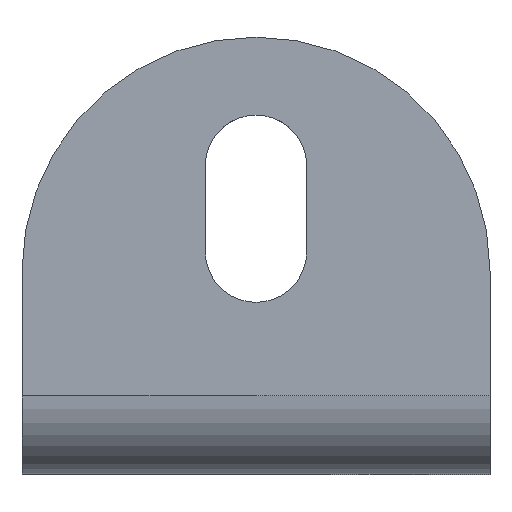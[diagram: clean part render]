
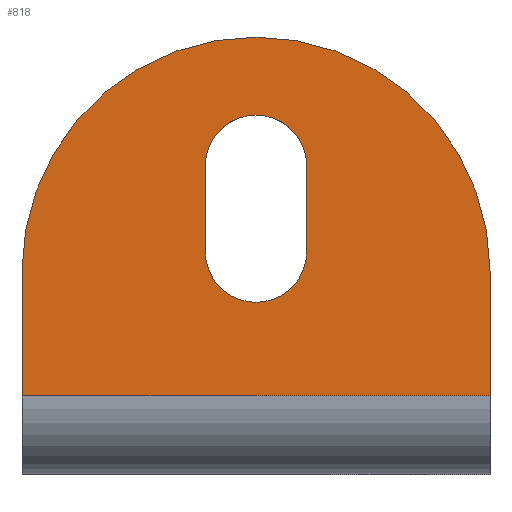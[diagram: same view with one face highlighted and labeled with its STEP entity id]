
A CAD part, top view. The second image highlights one B-rep face of the part: STEP entity #818.
In plain terms, the highlighted planar face has unit normal (0, 0, 1).
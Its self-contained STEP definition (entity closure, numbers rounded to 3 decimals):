
#11=DIRECTION('',(1.,0.,0.));
#12=VECTOR('',#11,30.);
#13=CARTESIAN_POINT('',(-15.,5.,0.));
#14=LINE('',#13,#12);
#19=DIRECTION('',(0.,1.,0.));
#20=VECTOR('',#19,8.);
#21=CARTESIAN_POINT('',(-15.,5.,0.));
#22=LINE('',#21,#20);
#23=CARTESIAN_POINT('',(0.,13.,0.));
#24=DIRECTION('',(0.,0.,-1.));
#25=DIRECTION('',(-1.,0.,0.));
#26=AXIS2_PLACEMENT_3D('',#23,#24,#25);
#28=DIRECTION('',(0.,-1.,0.));
#29=VECTOR('',#28,5.5);
#30=CARTESIAN_POINT('',(-3.25,19.75,0.));
#31=LINE('',#30,#29);
#32=CARTESIAN_POINT('',(0.,14.25,0.));
#33=DIRECTION('',(0.,0.,1.));
#34=DIRECTION('',(-1.,0.,0.));
#35=AXIS2_PLACEMENT_3D('',#32,#33,#34);
#37=DIRECTION('',(0.,1.,0.));
#38=VECTOR('',#37,5.5);
#39=CARTESIAN_POINT('',(3.25,14.25,0.));
#40=LINE('',#39,#38);
#41=CARTESIAN_POINT('',(0.,19.75,0.));
#42=DIRECTION('',(0.,0.,1.));
#43=DIRECTION('',(1.,0.,0.));
#44=AXIS2_PLACEMENT_3D('',#41,#42,#43);
#437=DIRECTION('',(0.,1.,0.));
#438=VECTOR('',#437,8.);
#439=CARTESIAN_POINT('',(15.,5.,0.));
#440=LINE('',#439,#438);
#574=CARTESIAN_POINT('',(-15.,5.,0.));
#576=VERTEX_POINT('',#574);
#588=CARTESIAN_POINT('',(-15.,13.,0.));
#589=VERTEX_POINT('',#588);
#590=CARTESIAN_POINT('',(15.,5.,0.));
#591=VERTEX_POINT('',#590);
#594=CARTESIAN_POINT('',(15.,13.,0.));
#595=VERTEX_POINT('',#594);
#596=CARTESIAN_POINT('',(-3.25,19.75,0.));
#597=CARTESIAN_POINT('',(-3.25,14.25,0.));
#598=VERTEX_POINT('',#596);
#599=VERTEX_POINT('',#597);
#600=CARTESIAN_POINT('',(3.25,14.25,0.));
#601=VERTEX_POINT('',#600);
#602=CARTESIAN_POINT('',(3.25,19.75,0.));
#603=VERTEX_POINT('',#602);
#795=CARTESIAN_POINT('',(-15.,28.,0.));
#796=DIRECTION('',(0.,0.,1.));
#797=DIRECTION('',(0.,-1.,0.));
#798=AXIS2_PLACEMENT_3D('',#795,#796,#797);
#799=PLANE('',#798);
#800=ORIENTED_EDGE('',*,*,#786,.F.);
#801=ORIENTED_EDGE('',*,*,#775,.T.);
#803=ORIENTED_EDGE('',*,*,#802,.T.);
#805=ORIENTED_EDGE('',*,*,#804,.F.);
#806=EDGE_LOOP('',(#800,#801,#803,#805));
#807=FACE_OUTER_BOUND('',#806,.F.);
#809=ORIENTED_EDGE('',*,*,#808,.T.);
#811=ORIENTED_EDGE('',*,*,#810,.T.);
#813=ORIENTED_EDGE('',*,*,#812,.T.);
#815=ORIENTED_EDGE('',*,*,#814,.T.);
#816=EDGE_LOOP('',(#809,#811,#813,#815));
#817=FACE_BOUND('',#816,.F.);
#818=ADVANCED_FACE('',(#807,#817),#799,.T.);
#27=CIRCLE('',#26,15.);
#36=CIRCLE('',#35,3.25);
#45=CIRCLE('',#44,3.25);
#775=EDGE_CURVE('',#576,#589,#22,.T.);
#786=EDGE_CURVE('',#576,#591,#14,.T.);
#802=EDGE_CURVE('',#589,#595,#27,.T.);
#804=EDGE_CURVE('',#591,#595,#440,.T.);
#808=EDGE_CURVE('',#598,#599,#31,.T.);
#810=EDGE_CURVE('',#599,#601,#36,.T.);
#812=EDGE_CURVE('',#601,#603,#40,.T.);
#814=EDGE_CURVE('',#603,#598,#45,.T.);
